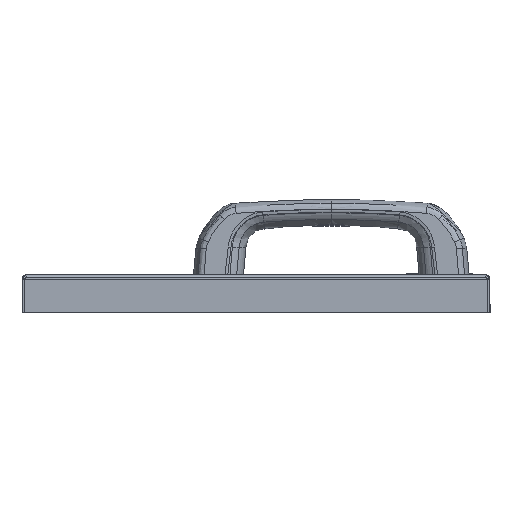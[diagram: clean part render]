
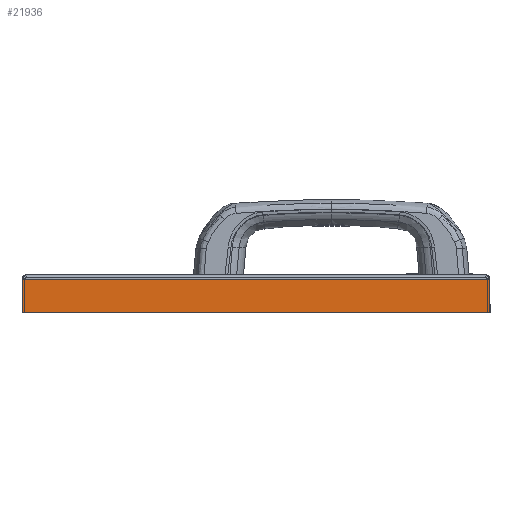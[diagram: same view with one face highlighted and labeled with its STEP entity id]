
A CAD part, left-side view. The second image highlights one B-rep face of the part: STEP entity #21936.
In plain terms, the highlighted planar face has unit normal (-1, 0, 0).
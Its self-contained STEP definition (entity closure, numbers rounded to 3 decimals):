
#17321=CARTESIAN_POINT(' ',(0.,247.,-2.3));
#17322=VERTEX_POINT(' ',#17321);
#17336=CARTESIAN_POINT(' ',(0.,247.,-2.3));
#17341=DIRECTION(' ',(0.,-1.,0.));
#17346=VECTOR(' ',#17341,1.);
#17351=LINE('',#17336,#17346);
#17356=CARTESIAN_POINT(' ',(0.,0.,-2.3));
#17357=VERTEX_POINT(' ',#17356);
#17361=EDGE_CURVE(' ',#17322,#17357,#17351,.T.);
#21796=DIRECTION(' ',(-1.,-0.,-0.));
#21801=CARTESIAN_POINT(' ',(0.,0.,-2.3));
#21806=DIRECTION(' ',(-0.,1.,0.));
#21811=AXIS2_PLACEMENT_3D(' ',#21801,#21796,#21806);
#21816=PLANE('NONE',#21811);
#21821=CARTESIAN_POINT(' ',(0.,0.,-20.));
#21826=DIRECTION(' ',(0.,0.,1.));
#21831=VECTOR(' ',#21826,1.);
#21836=LINE('',#21821,#21831);
#21841=CARTESIAN_POINT(' ',(0.,0.,-20.));
#21842=VERTEX_POINT(' ',#21841);
#21846=EDGE_CURVE(' ',#21842,#17357,#21836,.T.);
#21851=ORIENTED_EDGE(' ',*,*,#21846,.T.);
#21856=ORIENTED_EDGE(' ',*,*,#17361,.F.);
#21861=CARTESIAN_POINT(' ',(0.,247.,-20.));
#21866=DIRECTION(' ',(0.,0.,1.));
#21871=VECTOR(' ',#21866,1.);
#21876=LINE('',#21861,#21871);
#21881=CARTESIAN_POINT(' ',(0.,247.,-20.));
#21882=VERTEX_POINT(' ',#21881);
#21886=EDGE_CURVE(' ',#21882,#17322,#21876,.T.);
#21891=ORIENTED_EDGE(' ',*,*,#21886,.F.);
#21896=CARTESIAN_POINT(' ',(0.,247.,-20.));
#21901=DIRECTION(' ',(0.,-1.,0.));
#21906=VECTOR(' ',#21901,1.);
#21911=LINE('',#21896,#21906);
#21916=EDGE_CURVE(' ',#21882,#21842,#21911,.T.);
#21921=ORIENTED_EDGE(' ',*,*,#21916,.T.);
#21926=EDGE_LOOP(' ',(#21851,#21856,#21891,#21921));
#21931=FACE_OUTER_BOUND(' ',#21926,.T.);
#21936=ADVANCED_FACE('NONE',(#21931),#21816,.T.);
